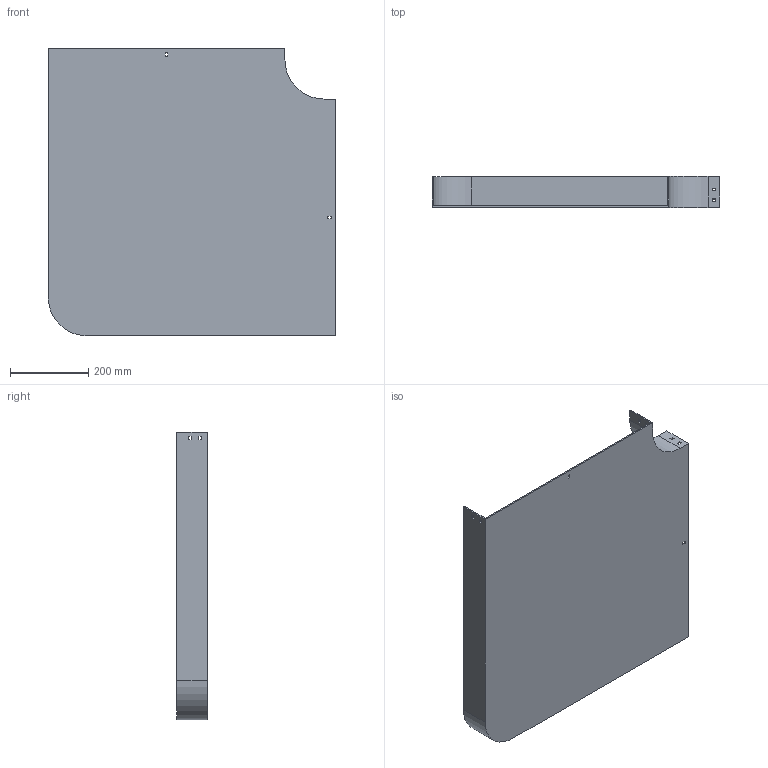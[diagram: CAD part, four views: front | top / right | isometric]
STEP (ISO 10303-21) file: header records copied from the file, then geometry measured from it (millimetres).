
FILE_DESCRIPTION (( 'STEP AP214' ), '1' );
FILE_NAME ('10F1C600.step', '2025-02-21T12:57:47', ( '' ), ( '' ), 'SwSTEP 2.0', 'SolidWorks 2023', '' );
FILE_SCHEMA (( 'AUTOMOTIVE_DESIGN' ));
Length unit declared in the file: millimetre
Products named in the file (1): 10F1C600
Bounding box: 734 x 79 x 734 mm (x, y, z)
Volume: 2258067.1 mm3; surface area: 1302525.6 mm2
Topology: 1 solids, 1 shells, 58 faces, 168 edges, 112 vertices
Faces by surface type: plane 54, cylinder 4
Entity records: 1943 total; most frequent: CARTESIAN_POINT 339, ORIENTED_EDGE 336, DIRECTION 294, EDGE_CURVE 168, VECTOR 160, LINE 160, VERTEX_POINT 112, EDGE_LOOP 78
